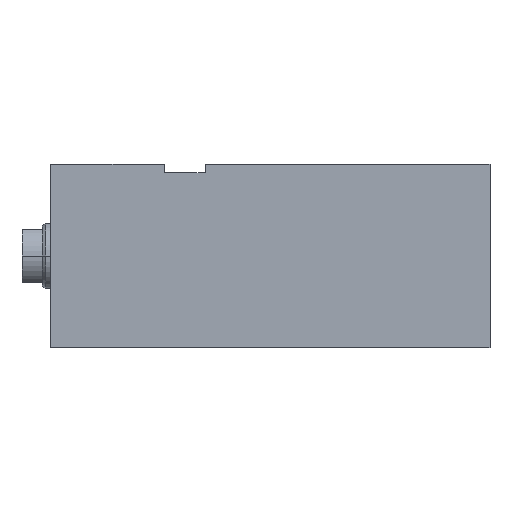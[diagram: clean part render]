
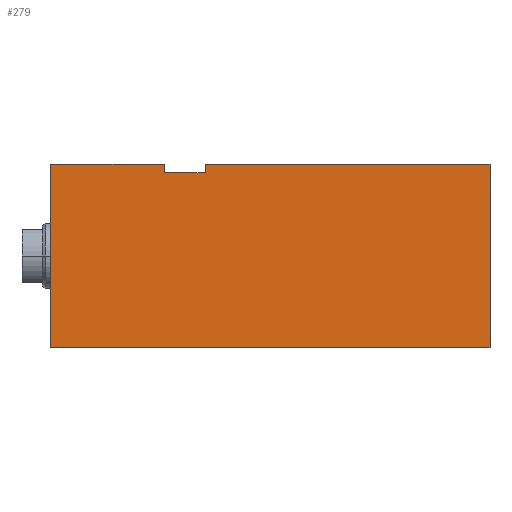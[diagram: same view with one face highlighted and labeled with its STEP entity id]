
A CAD part, left-side view. The second image highlights one B-rep face of the part: STEP entity #279.
In plain terms, the highlighted planar face has unit normal (-1, 0, 0).
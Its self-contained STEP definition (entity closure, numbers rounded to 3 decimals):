
#67 = CARTESIAN_POINT ( 'NONE',  ( -32.5, 0., -22.5 ) ) ;
#145 = LINE ( 'NONE', #3173, #307 ) ;
#213 = PLANE ( 'NONE',  #457 ) ;
#251 = CARTESIAN_POINT ( 'NONE',  ( -32.5, 108., -22.5 ) ) ;
#279 = ADVANCED_FACE ( 'NONE', ( #2613 ), #213, .F. ) ;
#283 = DIRECTION ( 'NONE',  ( 0., -1., 0. ) ) ;
#307 = VECTOR ( 'NONE', #3195, 1000. ) ;
#334 = VERTEX_POINT ( 'NONE', #1187 ) ;
#357 = EDGE_CURVE ( 'NONE', #1869, #2980, #1679, .T. ) ;
#457 = AXIS2_PLACEMENT_3D ( 'NONE', #1938, #1906, #2705 ) ;
#468 = LINE ( 'NONE', #251, #1653 ) ;
#508 = DIRECTION ( 'NONE',  ( 0., -1., 0. ) ) ;
#537 = ORIENTED_EDGE ( 'NONE', *, *, #3125, .F. ) ;
#558 = ORIENTED_EDGE ( 'NONE', *, *, #3070, .F. ) ;
#588 = CARTESIAN_POINT ( 'NONE',  ( -32.5, 58., 22.5 ) ) ;
#631 = DIRECTION ( 'NONE',  ( 0., -1., 0. ) ) ;
#726 = DIRECTION ( 'NONE',  ( 0., 0., 1. ) ) ;
#736 = LINE ( 'NONE', #963, #1967 ) ;
#790 = CARTESIAN_POINT ( 'NONE',  ( -32.5, 80., 20.5 ) ) ;
#859 = CARTESIAN_POINT ( 'NONE',  ( -32.5, 70., 20.5 ) ) ;
#914 = VERTEX_POINT ( 'NONE', #859 ) ;
#933 = CARTESIAN_POINT ( 'NONE',  ( -32.5, 80., 22.5 ) ) ;
#942 = CARTESIAN_POINT ( 'NONE',  ( -32.5, 80., 20.5 ) ) ;
#963 = CARTESIAN_POINT ( 'NONE',  ( -32.5, 58., 22.5 ) ) ;
#968 = VECTOR ( 'NONE', #1807, 1000. ) ;
#1136 = EDGE_LOOP ( 'NONE', ( #2224, #558, #1315, #3157, #1492, #537, #1384, #3180 ) ) ;
#1187 = CARTESIAN_POINT ( 'NONE',  ( -32.5, 70., 22.5 ) ) ;
#1251 = CARTESIAN_POINT ( 'NONE',  ( -32.5, 80., 20.5 ) ) ;
#1260 = CARTESIAN_POINT ( 'NONE',  ( -32.5, 108., -22.5 ) ) ;
#1315 = ORIENTED_EDGE ( 'NONE', *, *, #1801, .F. ) ;
#1350 = VECTOR ( 'NONE', #3059, 1000. ) ;
#1384 = ORIENTED_EDGE ( 'NONE', *, *, #2292, .T. ) ;
#1492 = ORIENTED_EDGE ( 'NONE', *, *, #357, .F. ) ;
#1559 = VECTOR ( 'NONE', #631, 1000. ) ;
#1614 = VECTOR ( 'NONE', #2034, 1000. ) ;
#1653 = VECTOR ( 'NONE', #726, 1000. ) ;
#1679 = LINE ( 'NONE', #588, #2767 ) ;
#1698 = LINE ( 'NONE', #67, #968 ) ;
#1764 = CARTESIAN_POINT ( 'NONE',  ( -32.5, 0., 22.5 ) ) ;
#1801 = EDGE_CURVE ( 'NONE', #2592, #914, #2899, .T. ) ;
#1807 = DIRECTION ( 'NONE',  ( 0., 0., 1. ) ) ;
#1828 = CARTESIAN_POINT ( 'NONE',  ( -32.5, 58., -22.5 ) ) ;
#1869 = VERTEX_POINT ( 'NONE', #2458 ) ;
#1906 = DIRECTION ( 'NONE',  ( 1., 0., 0. ) ) ;
#1938 = CARTESIAN_POINT ( 'NONE',  ( -32.5, 58., -22.5 ) ) ;
#1967 = VECTOR ( 'NONE', #508, 1000. ) ;
#1971 = EDGE_CURVE ( 'NONE', #334, #2201, #736, .T. ) ;
#2034 = DIRECTION ( 'NONE',  ( 0., 0., 1. ) ) ;
#2142 = EDGE_CURVE ( 'NONE', #2996, #2201, #1698, .T. ) ;
#2182 = CARTESIAN_POINT ( 'NONE',  ( -32.5, 0., -22.5 ) ) ;
#2201 = VERTEX_POINT ( 'NONE', #1764 ) ;
#2224 = ORIENTED_EDGE ( 'NONE', *, *, #1971, .F. ) ;
#2292 = EDGE_CURVE ( 'NONE', #3249, #2996, #3028, .T. ) ;
#2324 = EDGE_CURVE ( 'NONE', #2592, #2980, #3199, .T. ) ;
#2458 = CARTESIAN_POINT ( 'NONE',  ( -32.5, 108., 22.5 ) ) ;
#2592 = VERTEX_POINT ( 'NONE', #942 ) ;
#2613 = FACE_OUTER_BOUND ( 'NONE', #1136, .T. ) ;
#2705 = DIRECTION ( 'NONE',  ( 0., 0., -1. ) ) ;
#2767 = VECTOR ( 'NONE', #283, 1000. ) ;
#2899 = LINE ( 'NONE', #1251, #1559 ) ;
#2980 = VERTEX_POINT ( 'NONE', #933 ) ;
#2996 = VERTEX_POINT ( 'NONE', #2182 ) ;
#3028 = LINE ( 'NONE', #1828, #1350 ) ;
#3059 = DIRECTION ( 'NONE',  ( 0., -1., 0. ) ) ;
#3070 = EDGE_CURVE ( 'NONE', #914, #334, #145, .T. ) ;
#3125 = EDGE_CURVE ( 'NONE', #3249, #1869, #468, .T. ) ;
#3157 = ORIENTED_EDGE ( 'NONE', *, *, #2324, .T. ) ;
#3173 = CARTESIAN_POINT ( 'NONE',  ( -32.5, 70., 20.5 ) ) ;
#3180 = ORIENTED_EDGE ( 'NONE', *, *, #2142, .T. ) ;
#3195 = DIRECTION ( 'NONE',  ( 0., 0., 1. ) ) ;
#3199 = LINE ( 'NONE', #790, #1614 ) ;
#3249 = VERTEX_POINT ( 'NONE', #1260 ) ;
